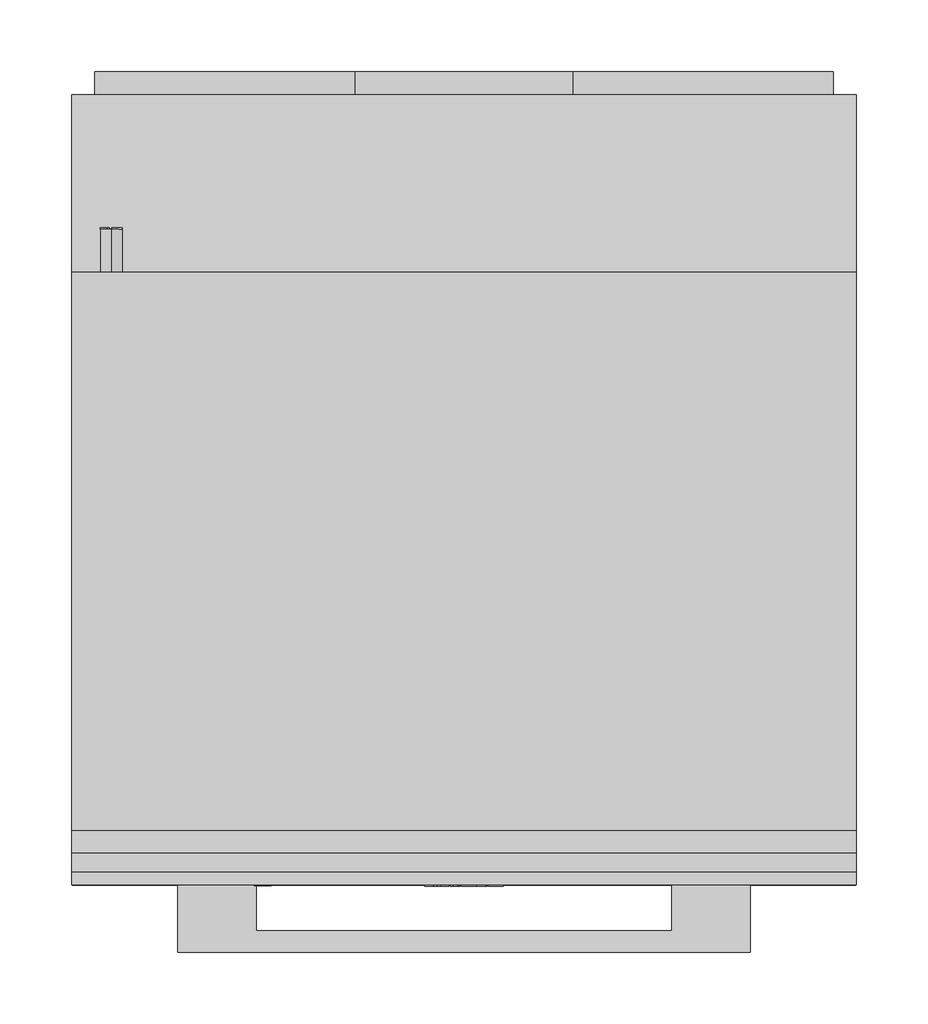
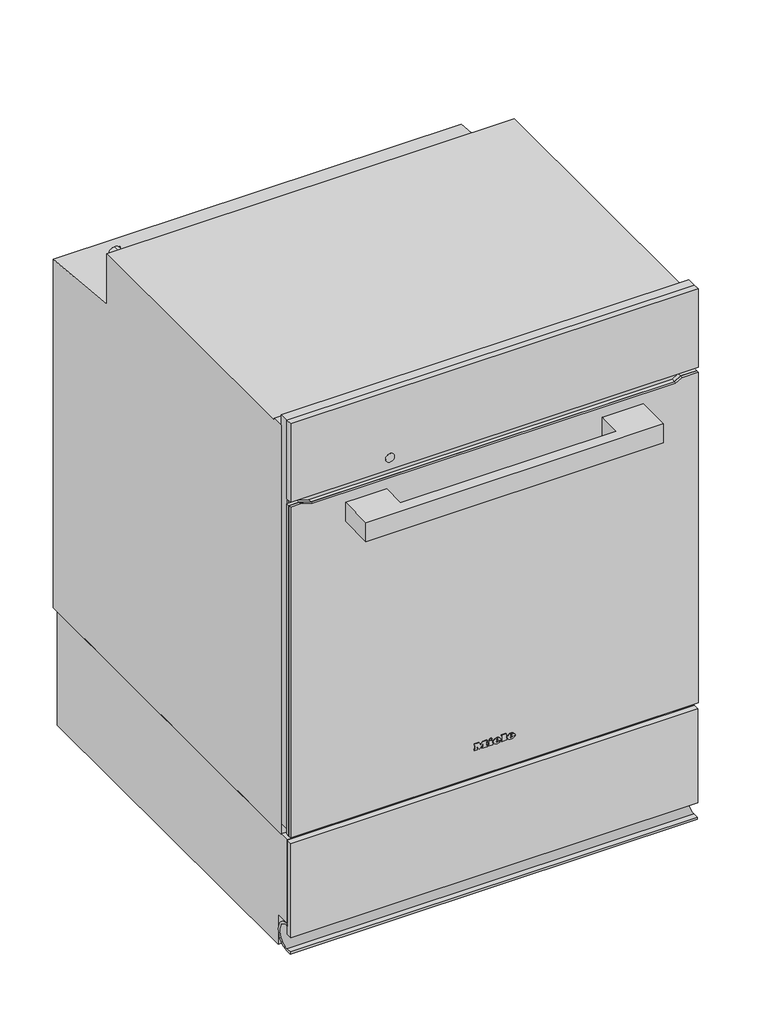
# Not in any storey: 1 proxy.
"""IFC4 building model written with IfcOpenShell, lengths in millimetres."""

from ifc_helpers import new_model, si_unit, origin, place, context, project, spatial, transform, mapped, element, save
from components import specialty_equipment_8915e9b3

model = new_model("IFC4")

# Units and contexts
model_context = context("Model", 3, world=origin())
ifc_project = project(units=[si_unit("LENGTHUNIT", "METRE", prefix="MILLI")], contexts=[model_context])

# Site, building
site = spatial("IfcSite", under=ifc_project)
building = spatial("IfcBuilding", under=site)

# Proxy
placement = place(None, origin())
specialty_equipment_shape = specialty_equipment_8915e9b3(model_context)
element("IfcBuildingElementProxy", 1, Name="11790250_CH_DGC7450-55_OBSW : 22745082_CH_11790250_DGC7450-55_OBSW", ObjectType="11790250_CH_DGC7450-55_OBSW : 22745082_CH_11790250_DGC7450-55_OBSW", at=placement, inside=building, context=model_context, shape_type="MappedRepresentation", body=[
    mapped(specialty_equipment_shape, transform((0.0, 0.0, 0.0), x_axis=(1.0, 0.0, 0.0), y_axis=(0.0, 1.0, 0.0), z_axis=(0.0, 0.0, 1.0))),
])

save(model, "model.ifc")
